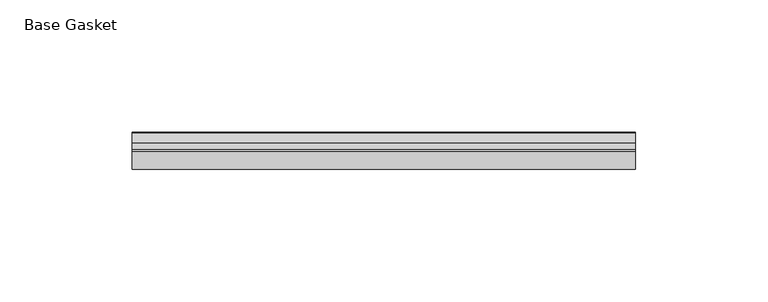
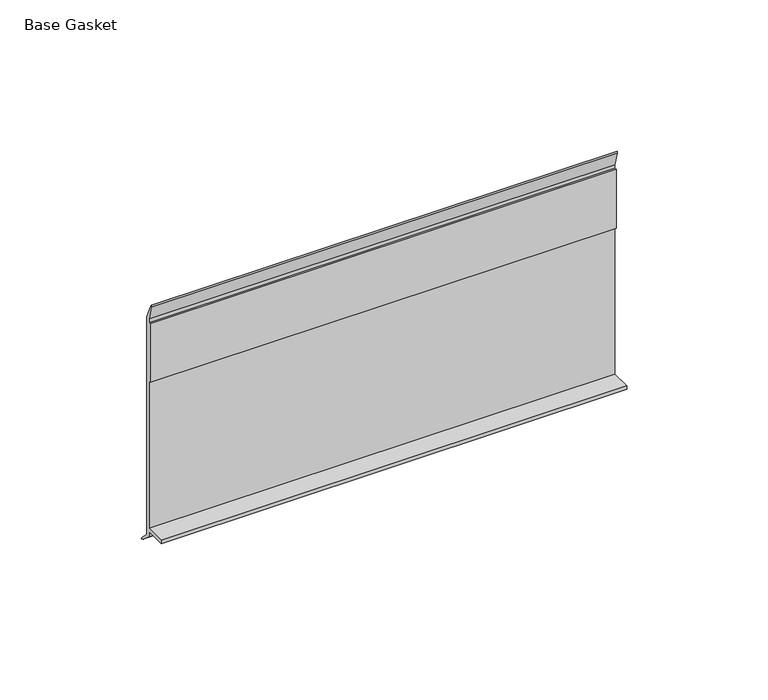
"""IFC4 building model written with IfcOpenShell, lengths in millimetres: furniture geometry, Gasket-Teknion-FHGB-AI_Healthcare-R2021 : Base Gasket."""

from ifc_helpers import new_model, si_unit, frame, origin, place, context, project, spatial, polyline, outline, extrude, source, transform, mapped, element, save


def base_gasket_478c6270(model_context):
    return source(origin(), model_context, "Body", "SweptSolid", [
        extrude(outline(polyline([(3.7283812, 98.4568417), (3.7283812, 4.3498477), (7.4222115, 0.6560174), (7.8482342, 0.0), (6.8281054, 0.3520979), (2.2043812, 4.3498477), (2.1334222, 6.3818476), (-6.2405171, 6.3818476), (-6.2405171, 7.9398773), (2.2043812, 7.9398773), (2.2043812, 71.4693447), (1.4106313, 71.4693447), (1.4106313, 96.8693477), (2.2043812, 96.8693477), (2.2043812, 98.4568417), (0.6755308, 104.4162708), (0.6755308, 105.2002997), (1.1891543, 104.587663), (3.7283812, 98.4568417)])), frame((-1527.8982117, 0.0, 0.0), z_axis=(1.0, 0.0, 0.0), x_axis=(0.0, 1.0, 0.0)), (0.0, 0.0, 1.0), 190.5),
    ])


if __name__ == "__main__":
    model = new_model("IFC4")
    model_context = context("Model", 3, world=origin())
    ifc_project = project(units=[si_unit("LENGTHUNIT", "METRE", prefix="MILLI")], contexts=[model_context])
    site = spatial("IfcSite", under=ifc_project)
    building = spatial("IfcBuilding", under=site)
    placement = place(None, origin())
    base_gasket_shape = base_gasket_478c6270(model_context)
    element("IfcFurniture", 1, ObjectType="Gasket-Teknion-FHGB-AI_Healthcare-R2021 : Base Gasket", at=placement, inside=building, context=model_context, shape_type="MappedRepresentation", body=[
        mapped(base_gasket_shape, transform((0.0, 0.0, 0.0), x_axis=(1.0, 0.0, 0.0), y_axis=(0.0, 1.0, 0.0), z_axis=(0.0, 0.0, 1.0))),
    ])
    save(model, "model.ifc")
